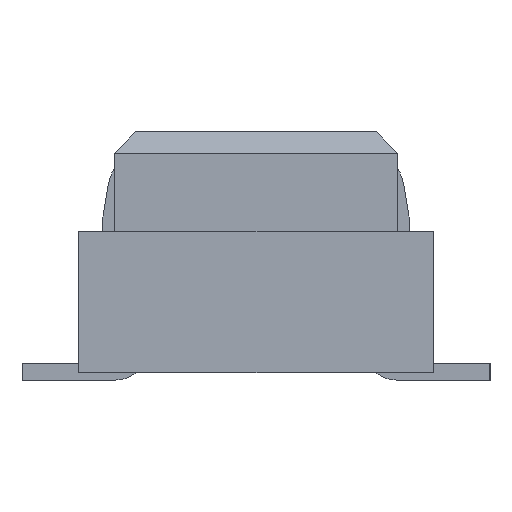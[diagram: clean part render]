
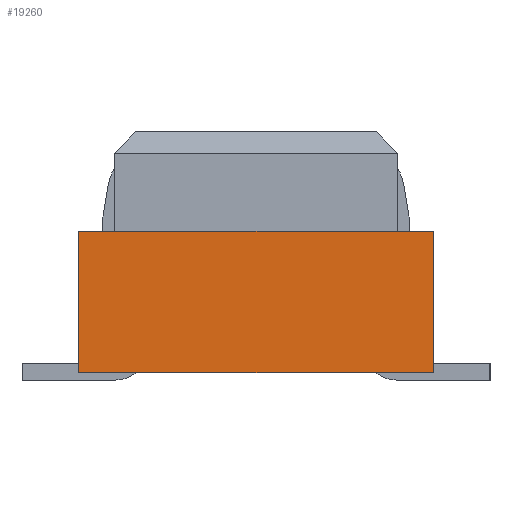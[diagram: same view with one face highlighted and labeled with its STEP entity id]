
A CAD part, left-side view. The second image highlights one B-rep face of the part: STEP entity #19260.
In plain terms, the highlighted planar face has unit normal (-1, 0, 0).
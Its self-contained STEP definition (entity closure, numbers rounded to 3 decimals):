
#1207 = ORIENTED_EDGE ( 'NONE', *, *, #60749, .T. ) ;
#1208 = ORIENTED_EDGE ( 'NONE', *, *, #60750, .F. ) ;
#1209 = ORIENTED_EDGE ( 'NONE', *, *, #60747, .F. ) ;
#1210 = ORIENTED_EDGE ( 'NONE', *, *, #60751, .T. ) ;
#5536 = EDGE_LOOP ( 'NONE', ( #1207, #1208, #1209, #1210 ) ) ;
#5766 = AXIS2_PLACEMENT_3D ( 'NONE', #10283, #10284, #10285 ) ;
#9868 = FACE_OUTER_BOUND ( 'NONE', #5536, .T. ) ;
#10282 = PLANE ( 'NONE',  #5766 ) ;
#10283 = CARTESIAN_POINT ( 'NONE',  ( -11.5, 0., 1.05 ) ) ;
#10284 = DIRECTION ( 'NONE',  ( 1., 0., 0. ) ) ;
#10285 = DIRECTION ( 'NONE',  ( 0., 1., 0. ) ) ;
#19116 = CARTESIAN_POINT ( 'NONE',  ( -11.5, -1.25, 1.05 ) ) ;
#19118 = CARTESIAN_POINT ( 'NONE',  ( -11.5, 1.25, 0.05 ) ) ;
#19119 = CARTESIAN_POINT ( 'NONE',  ( -11.5, -1.25, 0.05 ) ) ;
#19166 = CARTESIAN_POINT ( 'NONE',  ( -11.5, 1.25, 1.05 ) ) ;
#19260 = ADVANCED_FACE ( 'NONE', ( #9868 ), #10282, .F. ) ;
#29845 = LINE ( 'NONE', #30475, #29846 ) ;
#29846 = VECTOR ( 'NONE', #30476, 1000. ) ;
#29849 = LINE ( 'NONE', #30479, #29850 ) ;
#29850 = VECTOR ( 'NONE', #30480, 1000. ) ;
#29851 = LINE ( 'NONE', #30481, #29852 ) ;
#29852 = VECTOR ( 'NONE', #30482, 1000. ) ;
#29853 = LINE ( 'NONE', #30483, #29854 ) ;
#29854 = VECTOR ( 'NONE', #30484, 1000. ) ;
#30475 = CARTESIAN_POINT ( 'NONE',  ( -11.5, 0., 1.05 ) ) ;
#30476 = DIRECTION ( 'NONE',  ( 0., -1., 0. ) ) ;
#30479 = CARTESIAN_POINT ( 'NONE',  ( -11.5, 0., 0.05 ) ) ;
#30480 = DIRECTION ( 'NONE',  ( 0., -1., 0. ) ) ;
#30481 = CARTESIAN_POINT ( 'NONE',  ( -11.5, -1.25, 1.05 ) ) ;
#30482 = DIRECTION ( 'NONE',  ( 0., 0., -1. ) ) ;
#30483 = CARTESIAN_POINT ( 'NONE',  ( -11.5, 1.25, 1.05 ) ) ;
#30484 = DIRECTION ( 'NONE',  ( 0., 0., -1. ) ) ;
#58456 = VERTEX_POINT ( 'NONE', #19116 ) ;
#58457 = VERTEX_POINT ( 'NONE', #19118 ) ;
#58458 = VERTEX_POINT ( 'NONE', #19119 ) ;
#58487 = VERTEX_POINT ( 'NONE', #19166 ) ;
#60747 = EDGE_CURVE ( 'NONE', #58487, #58456, #29845, .T. ) ;
#60749 = EDGE_CURVE ( 'NONE', #58457, #58458, #29849, .T. ) ;
#60750 = EDGE_CURVE ( 'NONE', #58456, #58458, #29851, .T. ) ;
#60751 = EDGE_CURVE ( 'NONE', #58487, #58457, #29853, .T. ) ;
